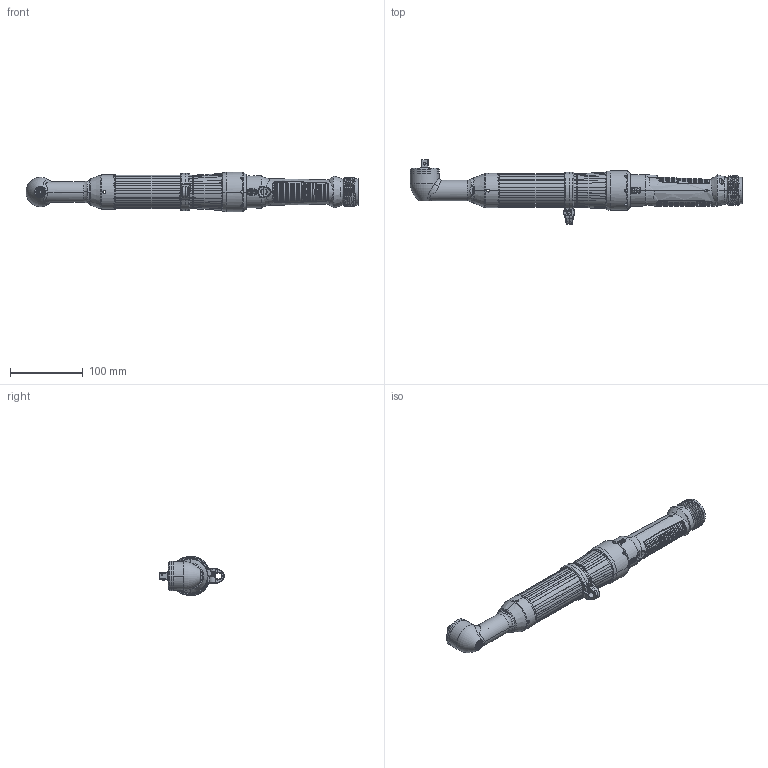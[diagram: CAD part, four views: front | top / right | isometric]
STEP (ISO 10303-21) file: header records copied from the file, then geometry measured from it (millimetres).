
FILE_DESCRIPTION((''),'2;1');
FILE_NAME('INTERFACE_6151653650_ASM','2012-09-18T',('greextsd'),(''),'PRO/ENGINEER BY PARAMETRIC TECHNOLOGY CORPORATION, 2010330','PRO/ENGINEER BY PARAMETRIC TECHNOLOGY CORPORATION, 2010330','');
FILE_SCHEMA(('CONFIG_CONTROL_DESIGN'));
Length unit declared in the file: millimetre
Products named in the file (21): 6156731290; BE20320_ASM; 6155953862; 6157850910; 6155953860_ASM; 6155210972; 6155953120; 6156370730; 6156250700; 6155210970_ASM; 6156662250; 6156721360; 6153965610_ASM; 6156731300; 6155710610; 6156160980; 6156050910; 6151653650_ASM; 6155730630_FORM; BE20320_SW0001; INTERFACE_6151653650_ASM
Assembly tree (20 placements, depth 5):
  INTERFACE_6151653650_ASM
    6151653650_ASM
      BE20320_ASM
        6156731290
      6153965610_ASM
        6155953860_ASM
          6155953862
          6157850910
        6155210970_ASM
          6155210972
          6155953120
          6156370730
          6156250700
        6156662250
        6156721360
      6156731300
      6155710610
      6156160980
      6156050910
    6155730630_FORM
    BE20320_SW0001
Bounding box: 455.4 x 88.97 x 54 mm (x, y, z)
Volume: 189668.3 mm3; surface area: 169762.9 mm2
Topology: 44 solids, 50 shells, 3834 faces, 9765 edges, 6186 vertices
Faces by surface type: plane 1813, cylinder 960, bspline 598, cone 198, torus 186, extrusion 33, sphere 31, revolution 15
Entity records: 165507 total; most frequent: CARTESIAN_POINT 80246, ORIENTED_EDGE 19470, DIRECTION 14582, EDGE_CURVE 9747, VERTEX_POINT 6186, AXIS2_PLACEMENT_3D 5287, EDGE_LOOP 4173, VECTOR 3993
